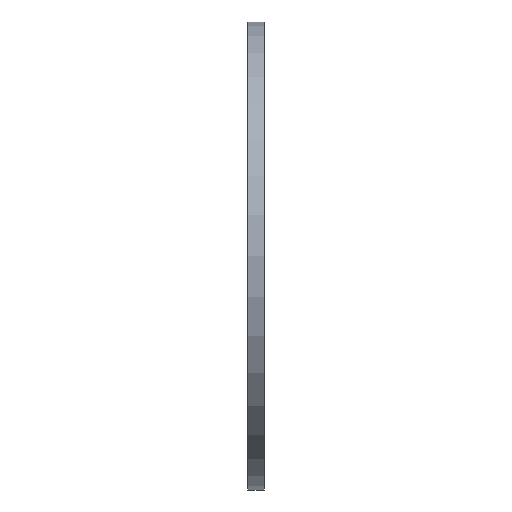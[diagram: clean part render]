
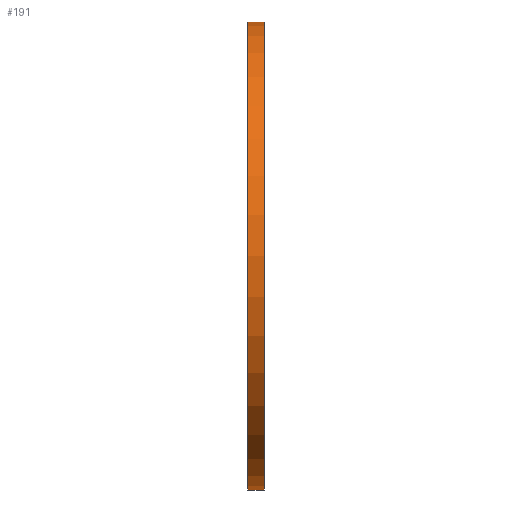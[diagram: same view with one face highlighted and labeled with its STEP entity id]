
A CAD part, left-side view. The second image highlights one B-rep face of the part: STEP entity #191.
In plain terms, the highlighted cylindrical face has radius 282.5 mm (diameter 565 mm), a partial arc.
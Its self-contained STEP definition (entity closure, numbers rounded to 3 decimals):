
#38 = ORIENTED_EDGE ( 'NONE', *, *, #897, .F. ) ;
#49 = ORIENTED_EDGE ( 'NONE', *, *, #926, .T. ) ;
#57 = VERTEX_POINT ( 'NONE', #1143 ) ;
#72 = CARTESIAN_POINT ( 'NONE',  ( 0., 20., 0. ) ) ;
#155 = CARTESIAN_POINT ( 'NONE',  ( 0., 38.545, 282.5 ) ) ;
#186 = DIRECTION ( 'NONE',  ( 0., 1., 0. ) ) ;
#191 = ADVANCED_FACE ( 'NONE', ( #678 ), #1137, .T. ) ;
#200 = CARTESIAN_POINT ( 'NONE',  ( 0., 0., 282.5 ) ) ;
#208 = EDGE_CURVE ( 'NONE', #1054, #260, #942, .T. ) ;
#260 = VERTEX_POINT ( 'NONE', #1076 ) ;
#266 = AXIS2_PLACEMENT_3D ( 'NONE', #878, #1431, #1330 ) ;
#531 = CIRCLE ( 'NONE', #1365, 282.5 ) ;
#581 = EDGE_LOOP ( 'NONE', ( #1120, #49, #1384, #38 ) ) ;
#676 = VECTOR ( 'NONE', #857, 1000. ) ;
#678 = FACE_OUTER_BOUND ( 'NONE', #581, .T. ) ;
#813 = EDGE_CURVE ( 'NONE', #1012, #57, #1302, .T. ) ;
#857 = DIRECTION ( 'NONE',  ( 0., 1., 0. ) ) ;
#878 = CARTESIAN_POINT ( 'NONE',  ( 0., 0., 0. ) ) ;
#897 = EDGE_CURVE ( 'NONE', #57, #260, #531, .T. ) ;
#909 = DIRECTION ( 'NONE',  ( 0., 1., 0. ) ) ;
#926 = EDGE_CURVE ( 'NONE', #1012, #1054, #1438, .T. ) ;
#942 = LINE ( 'NONE', #155, #1019 ) ;
#951 = DIRECTION ( 'NONE',  ( 0., 1., 0. ) ) ;
#1012 = VERTEX_POINT ( 'NONE', #1256 ) ;
#1019 = VECTOR ( 'NONE', #951, 1000. ) ;
#1027 = CARTESIAN_POINT ( 'NONE',  ( 0., 38.545, 0. ) ) ;
#1054 = VERTEX_POINT ( 'NONE', #200 ) ;
#1076 = CARTESIAN_POINT ( 'NONE',  ( 0., 20., 282.5 ) ) ;
#1120 = ORIENTED_EDGE ( 'NONE', *, *, #813, .F. ) ;
#1137 = CYLINDRICAL_SURFACE ( 'NONE', #1275, 282.5 ) ;
#1143 = CARTESIAN_POINT ( 'NONE',  ( 0., 20., -282.5 ) ) ;
#1193 = CARTESIAN_POINT ( 'NONE',  ( 0., 38.545, -282.5 ) ) ;
#1199 = DIRECTION ( 'NONE',  ( 0., 0., 1. ) ) ;
#1256 = CARTESIAN_POINT ( 'NONE',  ( 0., 0., -282.5 ) ) ;
#1275 = AXIS2_PLACEMENT_3D ( 'NONE', #1027, #909, #1359 ) ;
#1302 = LINE ( 'NONE', #1193, #676 ) ;
#1330 = DIRECTION ( 'NONE',  ( 0., 0., 1. ) ) ;
#1359 = DIRECTION ( 'NONE',  ( 0., 0., 1. ) ) ;
#1365 = AXIS2_PLACEMENT_3D ( 'NONE', #72, #186, #1199 ) ;
#1384 = ORIENTED_EDGE ( 'NONE', *, *, #208, .T. ) ;
#1431 = DIRECTION ( 'NONE',  ( 0., 1., 0. ) ) ;
#1438 = CIRCLE ( 'NONE', #266, 282.5 ) ;
